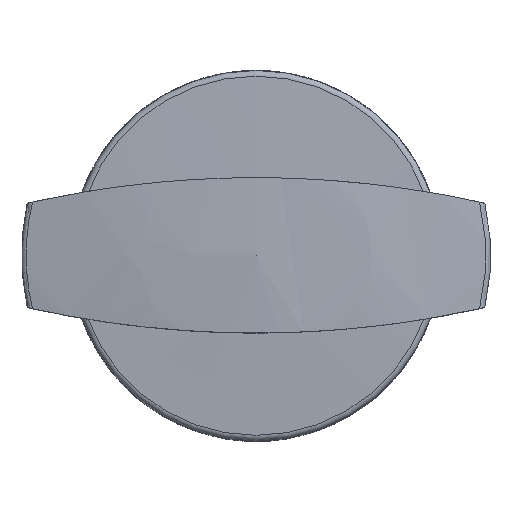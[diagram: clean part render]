
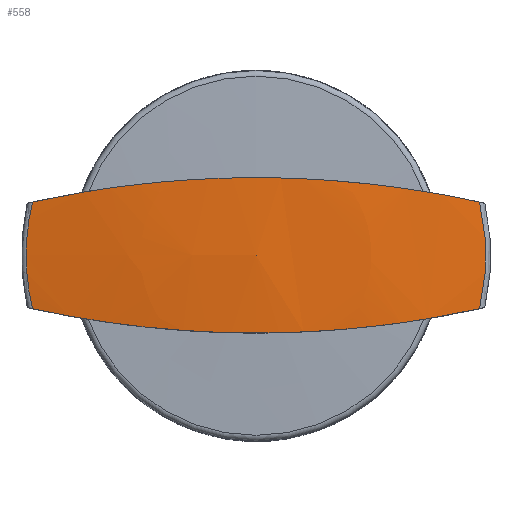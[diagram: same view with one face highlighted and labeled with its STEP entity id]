
A CAD part, top view. The second image highlights one B-rep face of the part: STEP entity #558.
In plain terms, the highlighted spherical face has radius 202 mm.
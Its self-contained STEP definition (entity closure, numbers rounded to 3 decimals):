
#558 = ADVANCED_FACE( '', ( #1592 ), #1593, .T. );
#1592 = FACE_OUTER_BOUND( '', #3166, .T. );
#1593 = SPHERICAL_SURFACE( '', #3167, 202. );
#3166 = EDGE_LOOP( '', ( #4811, #4812, #4813, #4814 ) );
#3167 = AXIS2_PLACEMENT_3D( '', #4815, #4816, #4817 );
#4811 = ORIENTED_EDGE( '', *, *, #9361, .F. );
#4812 = ORIENTED_EDGE( '', *, *, #9362, .T. );
#4813 = ORIENTED_EDGE( '', *, *, #9320, .F. );
#4814 = ORIENTED_EDGE( '', *, *, #9363, .T. );
#4815 = CARTESIAN_POINT( '', ( 0., 0., -112.15 ) );
#4816 = DIRECTION( '', ( 0., 0., 1. ) );
#4817 = DIRECTION( '', ( -1., 0., 0. ) );
#9320 = EDGE_CURVE( '', #11162, #11145, #11164, .T. );
#9361 = EDGE_CURVE( '', #11234, #11235, #11236, .T. );
#9362 = EDGE_CURVE( '', #11234, #11145, #11237, .T. );
#9363 = EDGE_CURVE( '', #11162, #11235, #11238, .T. );
#11145 = VERTEX_POINT( '', #13854 );
#11162 = VERTEX_POINT( '', #13931 );
#11164 = B_SPLINE_CURVE_WITH_KNOTS( '', 3, ( #13936, #13937, #13938, #13939, #13940, #13941, #13942, #13943, #13944, #13945, #13946, #13947, #13948, #13949 ), .UNSPECIFIED., .F., .F., ( 4, 2, 2, 2, 2, 2, 4 ), ( 0., 0.019, 0.038, 0.042, 0.047, 0.056, 0.075 ), .UNSPECIFIED. );
#11234 = VERTEX_POINT( '', #14220 );
#11235 = VERTEX_POINT( '', #14221 );
#11236 = B_SPLINE_CURVE_WITH_KNOTS( '', 3, ( #14222, #14223, #14224, #14225, #14226, #14227, #14228, #14229, #14230, #14231, #14232, #14233, #14234, #14235 ), .UNSPECIFIED., .F., .F., ( 4, 2, 2, 2, 2, 2, 4 ), ( 0., 0.019, 0.038, 0.042, 0.047, 0.056, 0.075 ), .UNSPECIFIED. );
#11237 = CIRCLE( '', #14236, 38.44 );
#11238 = CIRCLE( '', #14237, 38.44 );
#13854 = CARTESIAN_POINT( '', ( -37.391, -8.92, 86.159 ) );
#13931 = CARTESIAN_POINT( '', ( 37.391, -8.92, 86.159 ) );
#13936 = CARTESIAN_POINT( '', ( 37.391, -8.92, 86.159 ) );
#13937 = CARTESIAN_POINT( '', ( 31.274, -10.266, 87.251 ) );
#13938 = CARTESIAN_POINT( '', ( 25.11, -11.277, 88.064 ) );
#13939 = CARTESIAN_POINT( '', ( 12.689, -12.634, 89.153 ) );
#13940 = CARTESIAN_POINT( '', ( 6.432, -12.98, 89.428 ) );
#13941 = CARTESIAN_POINT( '', ( -1.449, -12.986, 89.433 ) );
#13942 = CARTESIAN_POINT( '', ( -3.028, -12.966, 89.417 ) );
#13943 = CARTESIAN_POINT( '', ( -6.192, -12.882, 89.35 ) );
#13944 = CARTESIAN_POINT( '', ( -7.779, -12.818, 89.299 ) );
#13945 = CARTESIAN_POINT( '', ( -12.534, -12.562, 89.094 ) );
#13946 = CARTESIAN_POINT( '', ( -15.685, -12.305, 88.889 ) );
#13947 = CARTESIAN_POINT( '', ( -25.082, -11.283, 88.069 ) );
#13948 = CARTESIAN_POINT( '', ( -31.273, -10.266, 87.252 ) );
#13949 = CARTESIAN_POINT( '', ( -37.391, -8.92, 86.159 ) );
#14220 = CARTESIAN_POINT( '', ( -37.391, 8.92, 86.159 ) );
#14221 = CARTESIAN_POINT( '', ( 37.391, 8.92, 86.159 ) );
#14222 = CARTESIAN_POINT( '', ( -37.391, 8.92, 86.159 ) );
#14223 = CARTESIAN_POINT( '', ( -31.274, 10.266, 87.251 ) );
#14224 = CARTESIAN_POINT( '', ( -25.11, 11.277, 88.064 ) );
#14225 = CARTESIAN_POINT( '', ( -12.689, 12.634, 89.153 ) );
#14226 = CARTESIAN_POINT( '', ( -6.432, 12.98, 89.428 ) );
#14227 = CARTESIAN_POINT( '', ( 1.449, 12.986, 89.433 ) );
#14228 = CARTESIAN_POINT( '', ( 3.028, 12.966, 89.417 ) );
#14229 = CARTESIAN_POINT( '', ( 6.192, 12.882, 89.35 ) );
#14230 = CARTESIAN_POINT( '', ( 7.779, 12.818, 89.299 ) );
#14231 = CARTESIAN_POINT( '', ( 12.534, 12.562, 89.094 ) );
#14232 = CARTESIAN_POINT( '', ( 15.685, 12.305, 88.889 ) );
#14233 = CARTESIAN_POINT( '', ( 25.082, 11.283, 88.069 ) );
#14234 = CARTESIAN_POINT( '', ( 31.273, 10.266, 87.252 ) );
#14235 = CARTESIAN_POINT( '', ( 37.391, 8.92, 86.159 ) );
#14236 = AXIS2_PLACEMENT_3D( '', #18661, #18662, #18663 );
#14237 = AXIS2_PLACEMENT_3D( '', #18664, #18665, #18666 );
#18661 = CARTESIAN_POINT( '', ( 0., 0., 86.159 ) );
#18662 = DIRECTION( '', ( 0., 0., 1. ) );
#18663 = DIRECTION( '', ( 0., -1., 0. ) );
#18664 = CARTESIAN_POINT( '', ( 0., 0., 86.159 ) );
#18665 = DIRECTION( '', ( 0., 0., 1. ) );
#18666 = DIRECTION( '', ( 0., -1., 0. ) );
